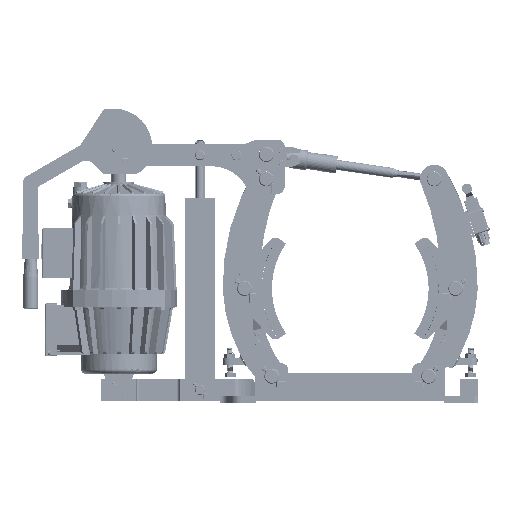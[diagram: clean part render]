
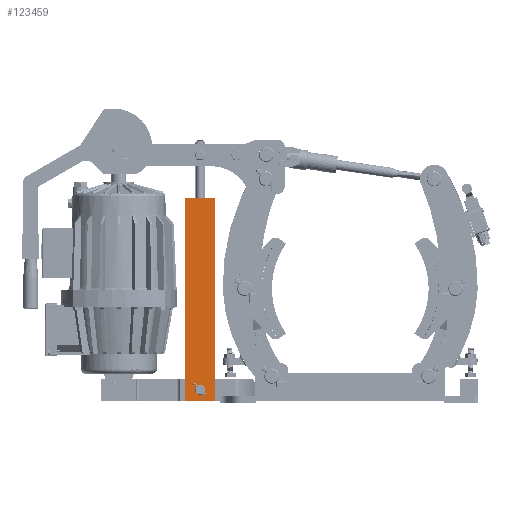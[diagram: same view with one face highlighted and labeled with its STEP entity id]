
A CAD part, left-side view. The second image highlights one B-rep face of the part: STEP entity #123459.
In plain terms, the highlighted planar face has unit normal (-1, 0, 0).
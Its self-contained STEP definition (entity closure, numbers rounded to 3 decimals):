
#123302=DIRECTION('',(0.,0.,1.));
#123303=VECTOR('',#123302,408.);
#123304=CARTESIAN_POINT('',(-90.,589.,4.));
#123305=LINE('',#123304,#123303);
#123309=DIRECTION('',(0.,-1.,0.));
#123310=VECTOR('',#123309,60.);
#123311=CARTESIAN_POINT('',(-90.,589.,412.));
#123312=LINE('',#123311,#123310);
#123316=DIRECTION('',(0.,0.,-1.));
#123317=VECTOR('',#123316,408.);
#123318=CARTESIAN_POINT('',(-90.,529.,412.));
#123319=LINE('',#123318,#123317);
#123323=DIRECTION('',(0.,1.,0.));
#123324=VECTOR('',#123323,60.);
#123325=CARTESIAN_POINT('',(-90.,529.,4.));
#123326=LINE('',#123325,#123324);
#123330=CARTESIAN_POINT('',(-90.,569.,26.5));
#123331=CARTESIAN_POINT('',(-90.,569.,26.172));
#123332=CARTESIAN_POINT('',(-90.,568.968,25.519));
#123333=CARTESIAN_POINT('',(-90.,568.824,24.546));
#123334=CARTESIAN_POINT('',(-90.,568.585,23.592));
#123335=CARTESIAN_POINT('',(-90.,568.254,22.668));
#123336=CARTESIAN_POINT('',(-90.,567.833,21.777));
#123337=CARTESIAN_POINT('',(-90.,567.326,20.932));
#123338=CARTESIAN_POINT('',(-90.,566.739,20.142));
#123339=CARTESIAN_POINT('',(-90.,566.078,19.413));
#123340=CARTESIAN_POINT('',(-90.,565.35,18.754));
#123341=CARTESIAN_POINT('',(-90.,564.561,18.169));
#123342=CARTESIAN_POINT('',(-90.,563.718,17.664));
#123343=CARTESIAN_POINT('',(-90.,562.829,17.245));
#123344=CARTESIAN_POINT('',(-90.,561.907,16.915));
#123345=CARTESIAN_POINT('',(-90.,560.955,16.677));
#123346=CARTESIAN_POINT('',(-90.,559.983,16.532));
#123347=CARTESIAN_POINT('',(-90.,559.329,16.5));
#123348=CARTESIAN_POINT('',(-90.,559.,16.5));
#123353=CARTESIAN_POINT('',(-90.,559.,16.5));
#123354=CARTESIAN_POINT('',(-90.,558.672,16.5));
#123355=CARTESIAN_POINT('',(-90.,558.019,16.532));
#123356=CARTESIAN_POINT('',(-90.,557.046,16.676));
#123357=CARTESIAN_POINT('',(-90.,556.092,16.915));
#123358=CARTESIAN_POINT('',(-90.,555.168,17.246));
#123359=CARTESIAN_POINT('',(-90.,554.277,17.667));
#123360=CARTESIAN_POINT('',(-90.,553.432,18.174));
#123361=CARTESIAN_POINT('',(-90.,552.642,18.761));
#123362=CARTESIAN_POINT('',(-90.,551.914,19.422));
#123363=CARTESIAN_POINT('',(-90.,551.254,20.15));
#123364=CARTESIAN_POINT('',(-90.,550.669,20.94));
#123365=CARTESIAN_POINT('',(-90.,550.165,21.782));
#123366=CARTESIAN_POINT('',(-90.,549.745,22.671));
#123367=CARTESIAN_POINT('',(-90.,549.415,23.593));
#123368=CARTESIAN_POINT('',(-90.,549.177,24.545));
#123369=CARTESIAN_POINT('',(-90.,549.032,25.518));
#123370=CARTESIAN_POINT('',(-90.,549.,26.171));
#123371=CARTESIAN_POINT('',(-90.,549.,26.5));
#123376=CARTESIAN_POINT('',(-90.,549.,26.5));
#123377=CARTESIAN_POINT('',(-90.,549.,26.828));
#123378=CARTESIAN_POINT('',(-90.,549.032,27.481));
#123379=CARTESIAN_POINT('',(-90.,549.177,28.454));
#123380=CARTESIAN_POINT('',(-90.,549.416,29.408));
#123381=CARTESIAN_POINT('',(-90.,549.746,30.332));
#123382=CARTESIAN_POINT('',(-90.,550.168,31.223));
#123383=CARTESIAN_POINT('',(-90.,550.674,32.068));
#123384=CARTESIAN_POINT('',(-90.,551.261,32.858));
#123385=CARTESIAN_POINT('',(-90.,551.922,33.587));
#123386=CARTESIAN_POINT('',(-90.,552.65,34.246));
#123387=CARTESIAN_POINT('',(-90.,553.44,34.831));
#123388=CARTESIAN_POINT('',(-90.,554.283,35.336));
#123389=CARTESIAN_POINT('',(-90.,555.171,35.755));
#123390=CARTESIAN_POINT('',(-90.,556.093,36.085));
#123391=CARTESIAN_POINT('',(-90.,557.045,36.323));
#123392=CARTESIAN_POINT('',(-90.,558.018,36.468));
#123393=CARTESIAN_POINT('',(-90.,558.671,36.5));
#123394=CARTESIAN_POINT('',(-90.,559.,36.5));
#123399=CARTESIAN_POINT('',(-90.,559.,36.5));
#123400=CARTESIAN_POINT('',(-90.,559.329,36.5));
#123401=CARTESIAN_POINT('',(-90.,559.982,36.468));
#123402=CARTESIAN_POINT('',(-90.,560.955,36.324));
#123403=CARTESIAN_POINT('',(-90.,561.908,36.085));
#123404=CARTESIAN_POINT('',(-90.,562.832,35.754));
#123405=CARTESIAN_POINT('',(-90.,563.723,35.333));
#123406=CARTESIAN_POINT('',(-90.,564.568,34.826));
#123407=CARTESIAN_POINT('',(-90.,565.358,34.239));
#123408=CARTESIAN_POINT('',(-90.,566.087,33.578));
#123409=CARTESIAN_POINT('',(-90.,566.746,32.85));
#123410=CARTESIAN_POINT('',(-90.,567.331,32.06));
#123411=CARTESIAN_POINT('',(-90.,567.836,31.218));
#123412=CARTESIAN_POINT('',(-90.,568.256,30.329));
#123413=CARTESIAN_POINT('',(-90.,568.585,29.407));
#123414=CARTESIAN_POINT('',(-90.,568.824,28.455));
#123415=CARTESIAN_POINT('',(-90.,568.968,27.482));
#123416=CARTESIAN_POINT('',(-90.,569.,26.829));
#123417=CARTESIAN_POINT('',(-90.,569.,26.5));
#123422=CARTESIAN_POINT('',(-90.,589.,4.));
#123423=CARTESIAN_POINT('',(-90.,589.,412.));
#123424=VERTEX_POINT('',#123422);
#123425=VERTEX_POINT('',#123423);
#123426=CARTESIAN_POINT('',(-90.,529.,412.));
#123427=VERTEX_POINT('',#123426);
#123428=CARTESIAN_POINT('',(-90.,529.,4.));
#123429=VERTEX_POINT('',#123428);
#123430=VERTEX_POINT('',#123330);
#123431=VERTEX_POINT('',#123348);
#123432=VERTEX_POINT('',#123371);
#123433=VERTEX_POINT('',#123394);
#123434=CARTESIAN_POINT('',(-90.,559.,208.));
#123435=DIRECTION('',(1.,0.,0.));
#123436=DIRECTION('',(0.,0.,-1.));
#123437=AXIS2_PLACEMENT_3D('',#123434,#123435,#123436);
#123438=PLANE('',#123437);
#123440=ORIENTED_EDGE('',*,*,#123439,.T.);
#123442=ORIENTED_EDGE('',*,*,#123441,.T.);
#123444=ORIENTED_EDGE('',*,*,#123443,.T.);
#123446=ORIENTED_EDGE('',*,*,#123445,.T.);
#123447=EDGE_LOOP('',(#123440,#123442,#123444,#123446));
#123448=FACE_OUTER_BOUND('',#123447,.F.);
#123450=ORIENTED_EDGE('',*,*,#123449,.T.);
#123452=ORIENTED_EDGE('',*,*,#123451,.T.);
#123454=ORIENTED_EDGE('',*,*,#123453,.T.);
#123456=ORIENTED_EDGE('',*,*,#123455,.T.);
#123457=EDGE_LOOP('',(#123450,#123452,#123454,#123456));
#123458=FACE_BOUND('',#123457,.F.);
#123459=ADVANCED_FACE('',(#123448,#123458),#123438,.F.);
#123349=B_SPLINE_CURVE_WITH_KNOTS('',3,(#123330,#123331,#123332,#123333,#123334,
#123335,#123336,#123337,#123338,#123339,#123340,#123341,#123342,#123343,#123344,
#123345,#123346,#123347,#123348),.UNSPECIFIED.,.F.,.F.,(4,1,1,1,1,1,1,1,1,1,1,1,
1,1,1,1,4),(0.,0.063,0.125,0.188,0.25,0.313,0.375,0.438,
0.5,0.563,0.625,0.688,0.75,0.813,0.875,0.938,1.),
.UNSPECIFIED.);
#123372=B_SPLINE_CURVE_WITH_KNOTS('',3,(#123353,#123354,#123355,#123356,#123357,
#123358,#123359,#123360,#123361,#123362,#123363,#123364,#123365,#123366,#123367,
#123368,#123369,#123370,#123371),.UNSPECIFIED.,.F.,.F.,(4,1,1,1,1,1,1,1,1,1,1,1,
1,1,1,1,4),(0.,0.063,0.125,0.188,0.25,0.313,0.375,0.438,
0.5,0.563,0.625,0.688,0.75,0.813,0.875,0.938,1.),
.UNSPECIFIED.);
#123395=B_SPLINE_CURVE_WITH_KNOTS('',3,(#123376,#123377,#123378,#123379,#123380,
#123381,#123382,#123383,#123384,#123385,#123386,#123387,#123388,#123389,#123390,
#123391,#123392,#123393,#123394),.UNSPECIFIED.,.F.,.F.,(4,1,1,1,1,1,1,1,1,1,1,1,
1,1,1,1,4),(0.,0.063,0.125,0.188,0.25,0.313,0.375,0.438,
0.5,0.563,0.625,0.688,0.75,0.813,0.875,0.938,1.),
.UNSPECIFIED.);
#123418=B_SPLINE_CURVE_WITH_KNOTS('',3,(#123399,#123400,#123401,#123402,#123403,
#123404,#123405,#123406,#123407,#123408,#123409,#123410,#123411,#123412,#123413,
#123414,#123415,#123416,#123417),.UNSPECIFIED.,.F.,.F.,(4,1,1,1,1,1,1,1,1,1,1,1,
1,1,1,1,4),(0.,0.063,0.125,0.188,0.25,0.313,0.375,0.438,
0.5,0.563,0.625,0.688,0.75,0.813,0.875,0.938,1.),
.UNSPECIFIED.);
#123439=EDGE_CURVE('',#123424,#123425,#123305,.T.);
#123441=EDGE_CURVE('',#123425,#123427,#123312,.T.);
#123443=EDGE_CURVE('',#123427,#123429,#123319,.T.);
#123445=EDGE_CURVE('',#123429,#123424,#123326,.T.);
#123449=EDGE_CURVE('',#123430,#123431,#123349,.T.);
#123451=EDGE_CURVE('',#123431,#123432,#123372,.T.);
#123453=EDGE_CURVE('',#123432,#123433,#123395,.T.);
#123455=EDGE_CURVE('',#123433,#123430,#123418,.T.);
